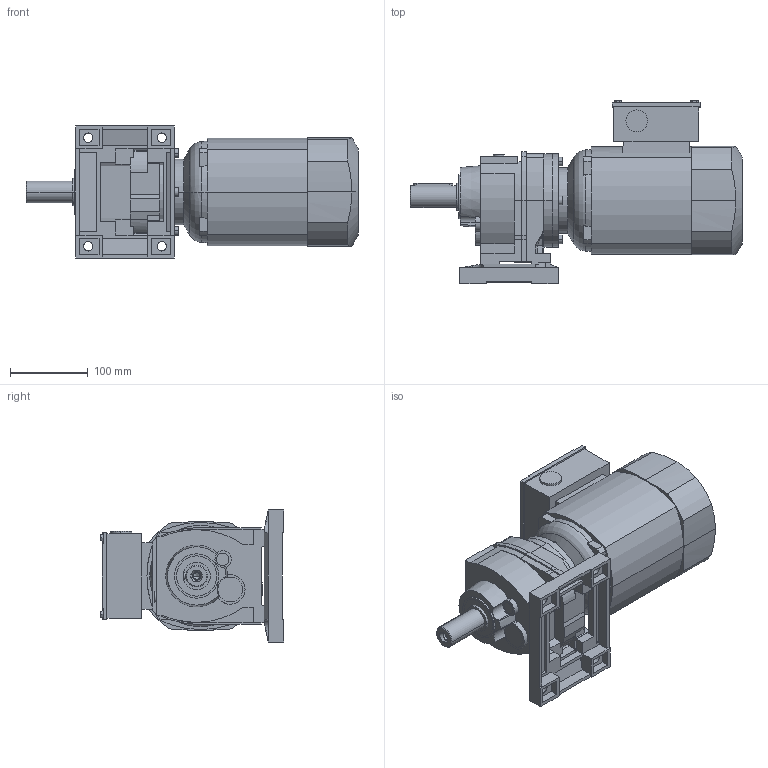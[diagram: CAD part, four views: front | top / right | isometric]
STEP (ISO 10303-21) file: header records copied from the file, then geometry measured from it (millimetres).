
FILE_DESCRIPTION(('STEP AP214'),'1');
FILE_NAME('STEP-File.stp','2018-01-01T00:00:00',(' '),('KEB'),' ','KEB-DRIVE',' ');
FILE_SCHEMA(('AUTOMOTIVE_DESIGN { 1 0 10303 214 1 1 1 1 }'));
Length unit declared in the file: millimetre
Products named in the file (8): z1a; w1_we_28x60; cl1; dm80_kkn; kk08; PLUG_M25; ndm80; ZG13 DM80K4§CAD13
Assembly tree (7 placements, depth 2):
  ZG13 DM80K4§CAD13
    z1a
    w1_we_28x60
    cl1
    dm80_kkn
    kk08
    PLUG_M25
    ndm80
Bounding box: 427.5 x 236 x 170 mm (x, y, z)
Volume: 6013341.6 mm3; surface area: 425316.1 mm2
Topology: 7 solids, 7 shells, 537 faces, 1538 edges, 1113 vertices
Faces by surface type: plane 375, cylinder 99, cone 55, torus 4, extrusion 4
Entity records: 19379 total; most frequent: CARTESIAN_POINT 5699, ORIENTED_EDGE 3066, DIRECTION 2265, EDGE_CURVE 1533, VECTOR 1155, LINE 1151, VERTEX_POINT 1113, EDGE_LOOP 656
